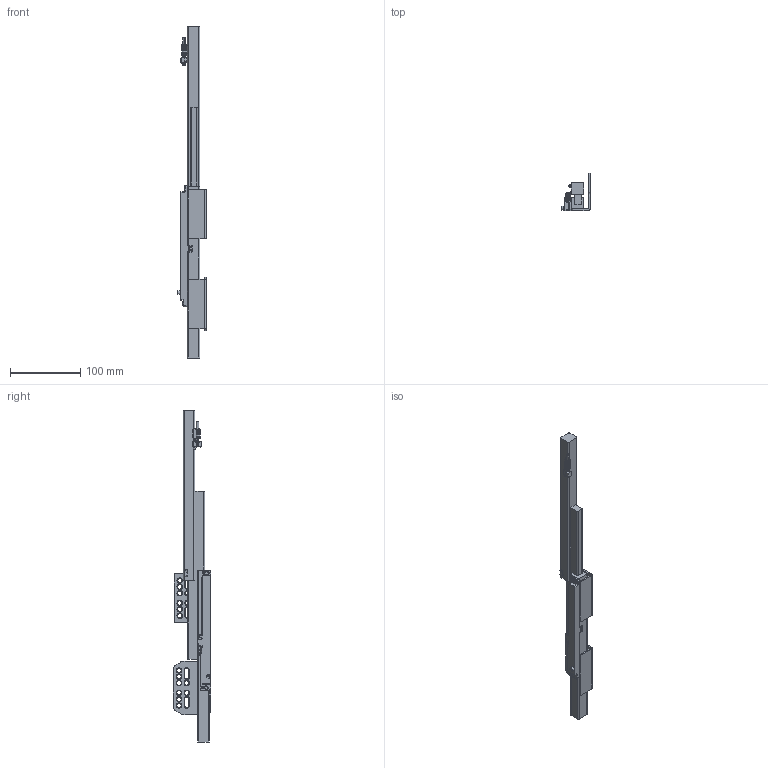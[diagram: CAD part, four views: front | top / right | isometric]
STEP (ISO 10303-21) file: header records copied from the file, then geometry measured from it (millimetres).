
FILE_DESCRIPTION (( 'STEP AP203' ), '1' );
FILE_NAME ('HB013004GX-R(打开).STEP', '2025-05-13T07:49:13', ( '微软用户' ), ( '微软中国' ), 'SwSTEP 2.0', 'SolidWorks 2021', '' );
FILE_SCHEMA (( 'CONFIG_CONTROL_DESIGN' ));
Products named in the file (4): HB013004GX-R(湖羲); HB413005H-1-R(湖羲); 瑰貌寢OFH01-GG-GB.STEP; M覃誹儂凳R
Assembly tree (3 placements, depth 2):
  HB013004GX-R(湖羲)
    HB413005H-1-R(湖羲)
    瑰貌寢OFH01-GG-GB.STEP
    M覃誹儂凳R
Bounding box: 40.83 x 53 x 473 mm (x, y, z)
Volume: 218012 mm3; surface area: 67154.6 mm2
Topology: 3 solids, 30 shells, 1464 faces, 3860 edges, 2445 vertices
Faces by surface type: plane 497, cylinder 489, bspline 268, torus 158, cone 44, sphere 8
Entity records: 82841 total; most frequent: CARTESIAN_POINT 48352, ORIENTED_EDGE 7664, DIRECTION 6457, EDGE_CURVE 3832, VERTEX_POINT 2443, AXIS2_PLACEMENT_3D 2329, LINE 1799, VECTOR 1799
